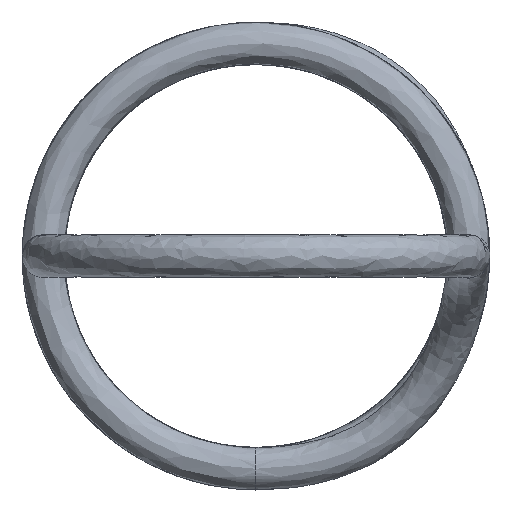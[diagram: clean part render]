
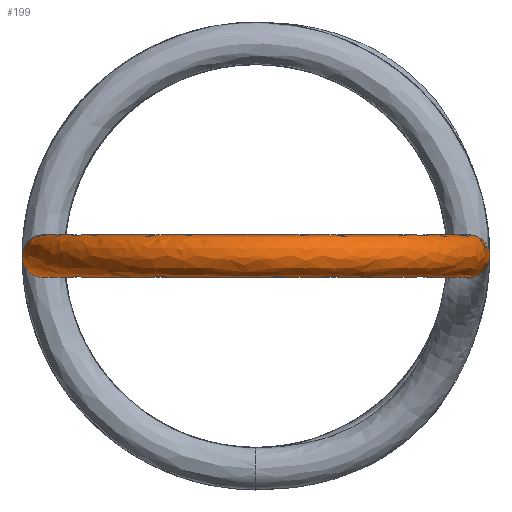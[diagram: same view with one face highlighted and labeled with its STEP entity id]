
A CAD part, front view. The second image highlights one B-rep face of the part: STEP entity #199.
In plain terms, the highlighted free-form (B-spline) face has degree [2, 2] with [9, 7] control points.
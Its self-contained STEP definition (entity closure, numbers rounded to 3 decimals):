
#15=(
BOUNDED_SURFACE()
B_SPLINE_SURFACE(2,2,((#705,#706,#707,#708,#709,#710,#711),(#712,#713,#714,
#715,#716,#717,#718),(#719,#720,#721,#722,#723,#724,#725),(#726,#727,#728,
#729,#730,#731,#732),(#733,#734,#735,#736,#737,#738,#739),(#740,#741,#742,
#743,#744,#745,#746),(#747,#748,#749,#750,#751,#752,#753),(#754,#755,#756,
#757,#758,#759,#760),(#761,#762,#763,#764,#765,#766,#767)),
 .UNSPECIFIED.,.T.,.F.,.F.)
B_SPLINE_SURFACE_WITH_KNOTS((3,2,2,2,3),(3,2,2,3),(0.,1.571,3.142,
4.712,6.283),(0.,1.081,2.161,
3.242),.UNSPECIFIED.)
GEOMETRIC_REPRESENTATION_ITEM()
RATIONAL_B_SPLINE_SURFACE(((1.,0.858,1.,0.858,1.,
0.858,1.),(0.707,0.606,0.707,
0.606,0.707,0.606,0.707),
(1.,0.858,1.,0.858,1.,0.858,1.),(0.707,
0.606,0.707,0.606,0.707,
0.606,0.707),(1.,0.858,1.,0.858,
1.,0.858,1.),(0.707,0.606,0.707,
0.606,0.707,0.606,0.707),
(1.,0.858,1.,0.858,1.,0.858,1.),(0.707,
0.606,0.707,0.606,0.707,
0.606,0.707),(1.,0.858,1.,0.858,
1.,0.858,1.)))
REPRESENTATION_ITEM('')
SURFACE()
);
#22=CIRCLE('',#234,0.5);
#23=CIRCLE('',#235,4.784);
#24=CIRCLE('',#236,0.5);
#37=FACE_OUTER_BOUND('',#48,.T.);
#48=EDGE_LOOP('',(#142,#143,#144,#145));
#85=VERTEX_POINT('',#630);
#88=VERTEX_POINT('',#768);
#106=EDGE_CURVE('',#85,#85,#22,.T.);
#109=EDGE_CURVE('',#85,#88,#23,.T.);
#110=EDGE_CURVE('',#88,#88,#24,.T.);
#142=ORIENTED_EDGE('',*,*,#106,.T.);
#143=ORIENTED_EDGE('',*,*,#109,.T.);
#144=ORIENTED_EDGE('',*,*,#110,.F.);
#145=ORIENTED_EDGE('',*,*,#109,.F.);
#199=ADVANCED_FACE('',(#37),#15,.T.);
#234=AXIS2_PLACEMENT_3D('',#641,#256,#257);
#235=AXIS2_PLACEMENT_3D('',#769,#258,#259);
#236=AXIS2_PLACEMENT_3D('',#770,#260,#261);
#256=DIRECTION('center_axis',(0.,-1.,0.));
#257=DIRECTION('ref_axis',(-0.433,0.,-0.901));
#258=DIRECTION('center_axis',(0.,0.,
-1.));
#259=DIRECTION('ref_axis',(1.,0.,0.));
#260=DIRECTION('center_axis',(0.1,0.995,0.));
#261=DIRECTION('ref_axis',(0.431,-0.043,-0.901));
#630=CARTESIAN_POINT('',(4.784,-26.4,-0.451));
#641=CARTESIAN_POINT('Origin',(5.,-26.4,0.));
#705=CARTESIAN_POINT('Ctrl Pts',(4.784,-26.4,-0.451));
#706=CARTESIAN_POINT('Ctrl Pts',(4.784,-29.269,-0.451));
#707=CARTESIAN_POINT('Ctrl Pts',(2.252,-30.62,-0.451));
#708=CARTESIAN_POINT('Ctrl Pts',(-0.279,-31.971,-0.451));
#709=CARTESIAN_POINT('Ctrl Pts',(-2.663,-30.374,-0.451));
#710=CARTESIAN_POINT('Ctrl Pts',(-5.046,-28.777,-0.451));
#711=CARTESIAN_POINT('Ctrl Pts',(-4.76,-25.922,-0.451));
#712=CARTESIAN_POINT('Ctrl Pts',(5.234,-26.4,-0.667));
#713=CARTESIAN_POINT('Ctrl Pts',(5.234,-29.54,-0.667));
#714=CARTESIAN_POINT('Ctrl Pts',(2.465,-31.018,-0.667));
#715=CARTESIAN_POINT('Ctrl Pts',(-0.305,-32.496,-0.667));
#716=CARTESIAN_POINT('Ctrl Pts',(-2.913,-30.748,-0.667));
#717=CARTESIAN_POINT('Ctrl Pts',(-5.522,-29.001,-0.667));
#718=CARTESIAN_POINT('Ctrl Pts',(-5.208,-25.877,-0.667));
#719=CARTESIAN_POINT('Ctrl Pts',(5.451,-26.4,-0.216));
#720=CARTESIAN_POINT('Ctrl Pts',(5.451,-29.669,-0.216));
#721=CARTESIAN_POINT('Ctrl Pts',(2.566,-31.209,-0.216));
#722=CARTESIAN_POINT('Ctrl Pts',(-0.318,-32.748,-0.216));
#723=CARTESIAN_POINT('Ctrl Pts',(-3.034,-30.928,-0.216));
#724=CARTESIAN_POINT('Ctrl Pts',(-5.75,-29.109,-0.216));
#725=CARTESIAN_POINT('Ctrl Pts',(-5.423,-25.856,-0.216));
#726=CARTESIAN_POINT('Ctrl Pts',(5.667,-26.4,0.234));
#727=CARTESIAN_POINT('Ctrl Pts',(5.667,-29.799,0.234));
#728=CARTESIAN_POINT('Ctrl Pts',(2.668,-31.4,0.234));
#729=CARTESIAN_POINT('Ctrl Pts',(-0.33,-33.,0.234));
#730=CARTESIAN_POINT('Ctrl Pts',(-3.154,-31.108,0.234));
#731=CARTESIAN_POINT('Ctrl Pts',(-5.978,-29.216,0.234));
#732=CARTESIAN_POINT('Ctrl Pts',(-5.639,-25.834,0.234));
#733=CARTESIAN_POINT('Ctrl Pts',(5.216,-26.4,0.451));
#734=CARTESIAN_POINT('Ctrl Pts',(5.216,-29.529,0.451));
#735=CARTESIAN_POINT('Ctrl Pts',(2.456,-31.002,0.451));
#736=CARTESIAN_POINT('Ctrl Pts',(-0.304,-32.475,0.451));
#737=CARTESIAN_POINT('Ctrl Pts',(-2.904,-30.734,0.451));
#738=CARTESIAN_POINT('Ctrl Pts',(-5.503,-28.992,0.451));
#739=CARTESIAN_POINT('Ctrl Pts',(-5.19,-25.879,0.451));
#740=CARTESIAN_POINT('Ctrl Pts',(4.766,-26.4,0.667));
#741=CARTESIAN_POINT('Ctrl Pts',(4.766,-29.258,0.667));
#742=CARTESIAN_POINT('Ctrl Pts',(2.244,-30.604,0.667));
#743=CARTESIAN_POINT('Ctrl Pts',(-0.278,-31.95,0.667));
#744=CARTESIAN_POINT('Ctrl Pts',(-2.653,-30.359,0.667));
#745=CARTESIAN_POINT('Ctrl Pts',(-5.027,-28.768,0.667));
#746=CARTESIAN_POINT('Ctrl Pts',(-4.742,-25.924,0.667));
#747=CARTESIAN_POINT('Ctrl Pts',(4.549,-26.4,0.216));
#748=CARTESIAN_POINT('Ctrl Pts',(4.549,-29.129,0.216));
#749=CARTESIAN_POINT('Ctrl Pts',(2.142,-30.413,0.216));
#750=CARTESIAN_POINT('Ctrl Pts',(-0.265,-31.698,0.216));
#751=CARTESIAN_POINT('Ctrl Pts',(-2.532,-30.179,0.216));
#752=CARTESIAN_POINT('Ctrl Pts',(-4.799,-28.661,0.216));
#753=CARTESIAN_POINT('Ctrl Pts',(-4.527,-25.946,0.216));
#754=CARTESIAN_POINT('Ctrl Pts',(4.333,-26.4,-0.234));
#755=CARTESIAN_POINT('Ctrl Pts',(4.333,-28.999,-0.234));
#756=CARTESIAN_POINT('Ctrl Pts',(2.04,-30.222,-0.234));
#757=CARTESIAN_POINT('Ctrl Pts',(-0.253,-31.446,-0.234));
#758=CARTESIAN_POINT('Ctrl Pts',(-2.412,-30.,-0.234));
#759=CARTESIAN_POINT('Ctrl Pts',(-4.571,-28.553,-0.234));
#760=CARTESIAN_POINT('Ctrl Pts',(-4.311,-25.967,-0.234));
#761=CARTESIAN_POINT('Ctrl Pts',(4.784,-26.4,-0.451));
#762=CARTESIAN_POINT('Ctrl Pts',(4.784,-29.269,-0.451));
#763=CARTESIAN_POINT('Ctrl Pts',(2.252,-30.62,-0.451));
#764=CARTESIAN_POINT('Ctrl Pts',(-0.279,-31.971,-0.451));
#765=CARTESIAN_POINT('Ctrl Pts',(-2.663,-30.374,-0.451));
#766=CARTESIAN_POINT('Ctrl Pts',(-5.046,-28.777,-0.451));
#767=CARTESIAN_POINT('Ctrl Pts',(-4.76,-25.922,-0.451));
#768=CARTESIAN_POINT('',(-4.76,-25.922,-0.451));
#769=CARTESIAN_POINT('Origin',(0.,-26.4,-0.451));
#770=CARTESIAN_POINT('Origin',(-4.975,-25.901,0.));
